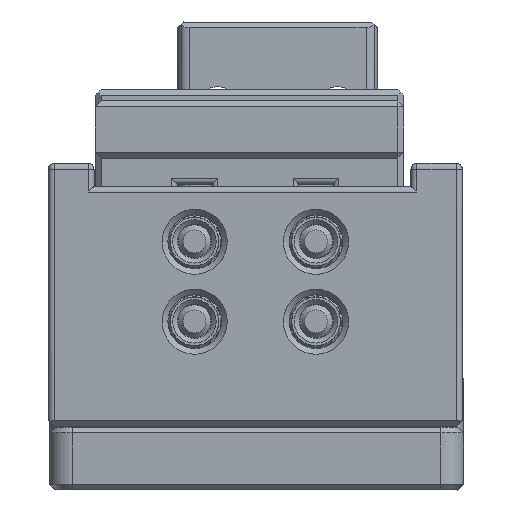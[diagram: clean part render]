
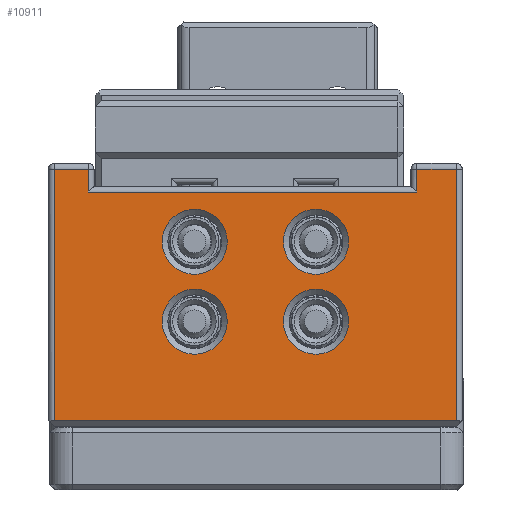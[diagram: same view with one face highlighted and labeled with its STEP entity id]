
A CAD part, left-side view. The second image highlights one B-rep face of the part: STEP entity #10911.
In plain terms, the highlighted planar face has unit normal (-1, 0, 0).
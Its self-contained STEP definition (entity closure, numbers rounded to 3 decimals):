
#10796=CARTESIAN_POINT('',(-40.012,322.517,356.6));
#10797=DIRECTION('',(-1.,0.,0.));
#10798=DIRECTION('',(0.,0.,-1.));
#10799=AXIS2_PLACEMENT_3D('',#10796,#10797,#10798);
#10800=PLANE('',#10799);
#10801=CARTESIAN_POINT('',(-40.012,320.517,390.4));
#10802=VERTEX_POINT('',#10801);
#10803=CARTESIAN_POINT('',(-40.012,323.517,390.4));
#10804=VERTEX_POINT('',#10803);
#10805=CARTESIAN_POINT('',(-40.012,320.517,390.4));
#10806=DIRECTION('',(-0.,1.,-0.));
#10807=VECTOR('',#10806,3.);
#10808=LINE('',#10805,#10807);
#10809=EDGE_CURVE('',#10802,#10804,#10808,.T.);
#10810=ORIENTED_EDGE('',*,*,#10809,.T.);
#10811=CARTESIAN_POINT('',(-40.012,323.517,368.4));
#10812=VERTEX_POINT('',#10811);
#10813=CARTESIAN_POINT('',(-40.012,323.517,390.4));
#10814=DIRECTION('',(0.,0.,-1.));
#10815=VECTOR('',#10814,22.);
#10816=LINE('',#10813,#10815);
#10817=EDGE_CURVE('',#10804,#10812,#10816,.T.);
#10818=ORIENTED_EDGE('',*,*,#10817,.T.);
#10819=CARTESIAN_POINT('',(-40.012,288.262,368.4));
#10820=VERTEX_POINT('',#10819);
#10821=CARTESIAN_POINT('',(-40.012,323.517,368.4));
#10822=DIRECTION('',(0.,-1.,0.));
#10823=VECTOR('',#10822,35.255);
#10824=LINE('',#10821,#10823);
#10825=EDGE_CURVE('',#10812,#10820,#10824,.T.);
#10826=ORIENTED_EDGE('',*,*,#10825,.T.);
#10827=CARTESIAN_POINT('',(-40.012,288.262,390.4));
#10828=VERTEX_POINT('',#10827);
#10829=CARTESIAN_POINT('',(-40.012,288.262,368.4));
#10830=DIRECTION('',(-0.,-0.,1.));
#10831=VECTOR('',#10830,22.);
#10832=LINE('',#10829,#10831);
#10833=EDGE_CURVE('',#10820,#10828,#10832,.T.);
#10834=ORIENTED_EDGE('',*,*,#10833,.T.);
#10835=CARTESIAN_POINT('',(-40.012,291.762,390.4));
#10836=VERTEX_POINT('',#10835);
#10837=CARTESIAN_POINT('',(-40.012,288.262,390.4));
#10838=DIRECTION('',(-0.,1.,-0.));
#10839=VECTOR('',#10838,3.5);
#10840=LINE('',#10837,#10839);
#10841=EDGE_CURVE('',#10828,#10836,#10840,.T.);
#10842=ORIENTED_EDGE('',*,*,#10841,.T.);
#10843=CARTESIAN_POINT('',(-40.012,291.762,388.4));
#10844=VERTEX_POINT('',#10843);
#10845=CARTESIAN_POINT('',(-40.012,291.762,390.4));
#10846=DIRECTION('',(0.,0.,-1.));
#10847=VECTOR('',#10846,2.);
#10848=LINE('',#10845,#10847);
#10849=EDGE_CURVE('',#10836,#10844,#10848,.T.);
#10850=ORIENTED_EDGE('',*,*,#10849,.T.);
#10851=CARTESIAN_POINT('',(-40.012,320.517,388.4));
#10852=VERTEX_POINT('',#10851);
#10853=CARTESIAN_POINT('',(-40.012,291.762,388.4));
#10854=DIRECTION('',(-0.,1.,-0.));
#10855=VECTOR('',#10854,28.755);
#10856=LINE('',#10853,#10855);
#10857=EDGE_CURVE('',#10844,#10852,#10856,.T.);
#10858=ORIENTED_EDGE('',*,*,#10857,.T.);
#10859=CARTESIAN_POINT('',(-40.012,320.517,388.4));
#10860=DIRECTION('',(-0.,-0.,1.));
#10861=VECTOR('',#10860,2.);
#10862=LINE('',#10859,#10861);
#10863=EDGE_CURVE('',#10852,#10802,#10862,.T.);
#10864=ORIENTED_EDGE('',*,*,#10863,.T.);
#10865=EDGE_LOOP('',(#10810,#10818,#10826,#10834,#10842,#10850,#10858,#10864));
#10866=FACE_BOUND('',#10865,.T.);
#10867=CARTESIAN_POINT('',(-40.012,308.353,377.039));
#10868=VERTEX_POINT('',#10867);
#10869=CARTESIAN_POINT('',(-40.012,311.203,377.039));
#10870=DIRECTION('',(1.,0.,-0.));
#10871=DIRECTION('',(0.,-1.,0.));
#10872=AXIS2_PLACEMENT_3D('',#10869,#10870,#10871);
#10873=CIRCLE('',#10872,2.85);
#10874=EDGE_CURVE('',#10868,#10868,#10873,.T.);
#10875=ORIENTED_EDGE('',*,*,#10874,.T.);
#10876=EDGE_LOOP('',(#10875));
#10877=FACE_BOUND('',#10876,.T.);
#10878=CARTESIAN_POINT('',(-40.012,297.726,377.039));
#10879=VERTEX_POINT('',#10878);
#10880=CARTESIAN_POINT('',(-40.012,300.576,377.039));
#10881=DIRECTION('',(1.,0.,-0.));
#10882=DIRECTION('',(0.,-1.,0.));
#10883=AXIS2_PLACEMENT_3D('',#10880,#10881,#10882);
#10884=CIRCLE('',#10883,2.85);
#10885=EDGE_CURVE('',#10879,#10879,#10884,.T.);
#10886=ORIENTED_EDGE('',*,*,#10885,.T.);
#10887=EDGE_LOOP('',(#10886));
#10888=FACE_BOUND('',#10887,.T.);
#10889=CARTESIAN_POINT('',(-40.012,297.726,384.039));
#10890=VERTEX_POINT('',#10889);
#10891=CARTESIAN_POINT('',(-40.012,300.576,384.039));
#10892=DIRECTION('',(1.,0.,-0.));
#10893=DIRECTION('',(0.,-1.,0.));
#10894=AXIS2_PLACEMENT_3D('',#10891,#10892,#10893);
#10895=CIRCLE('',#10894,2.85);
#10896=EDGE_CURVE('',#10890,#10890,#10895,.T.);
#10897=ORIENTED_EDGE('',*,*,#10896,.T.);
#10898=EDGE_LOOP('',(#10897));
#10899=FACE_BOUND('',#10898,.T.);
#10900=CARTESIAN_POINT('',(-40.012,308.353,384.039));
#10901=VERTEX_POINT('',#10900);
#10902=CARTESIAN_POINT('',(-40.012,311.203,384.039));
#10903=DIRECTION('',(1.,0.,-0.));
#10904=DIRECTION('',(0.,-1.,0.));
#10905=AXIS2_PLACEMENT_3D('',#10902,#10903,#10904);
#10906=CIRCLE('',#10905,2.85);
#10907=EDGE_CURVE('',#10901,#10901,#10906,.T.);
#10908=ORIENTED_EDGE('',*,*,#10907,.T.);
#10909=EDGE_LOOP('',(#10908));
#10910=FACE_BOUND('',#10909,.T.);
#10911=ADVANCED_FACE('',(#10866,#10877,#10888,#10899,#10910),#10800,.T.);
